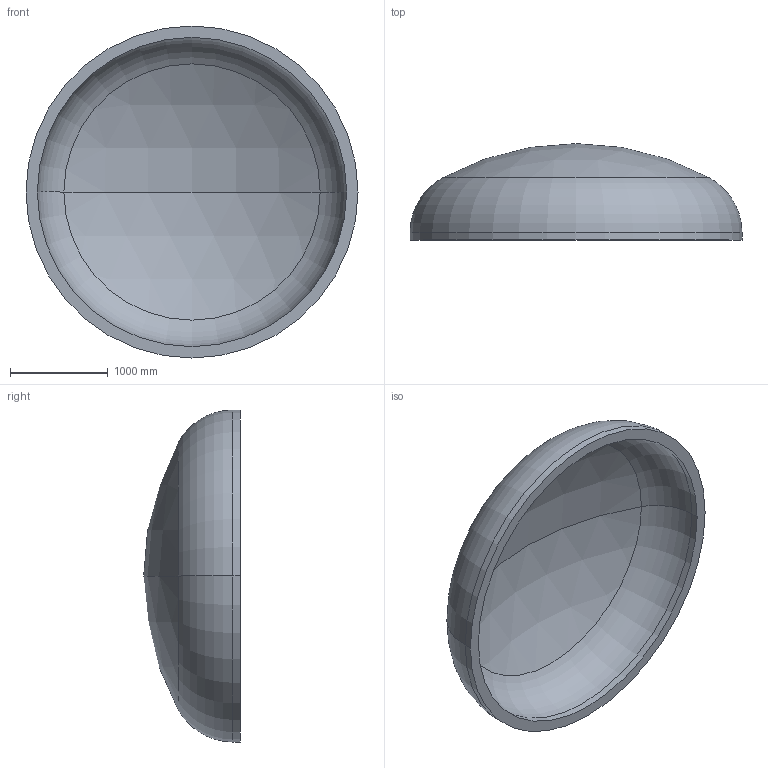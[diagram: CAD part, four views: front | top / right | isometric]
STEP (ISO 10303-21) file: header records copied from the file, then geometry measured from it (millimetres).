
FILE_DESCRIPTION (( 'STEP AP203' ), '1' );
FILE_NAME ('DIN 28013 Korbbogenform_-_Boden DIN 28013 - 3400 x 75 - I - s=116.step', '2016-07-01T19:57:49', ( '' ), ( '' ), 'SwSTEP 2.0', 'SolidWorks 2013', '' );
FILE_SCHEMA (( 'CONFIG_CONTROL_DESIGN' ));
Length unit declared in the file: millimetre
Products named in the file (1): DIN 28013 Korbbogenform_-_Boden DIN 28013 - 3400 x 75 - I - s=116
Bounding box: 3400 x 988.36 x 3400 mm (x, y, z)
Volume: 1485782654.6 mm3; surface area: 26841887 mm2
Topology: 1 solids, 1 shells, 13 faces, 24 edges, 14 vertices
Faces by surface type: torus 4, cylinder 4, sphere 4, plane 1
Entity records: 407 total; most frequent: DIRECTION 72, CARTESIAN_POINT 52, ORIENTED_EDGE 48, AXIS2_PLACEMENT_3D 34, EDGE_CURVE 24, CIRCLE 20, VERTEX_POINT 14, EDGE_LOOP 14
